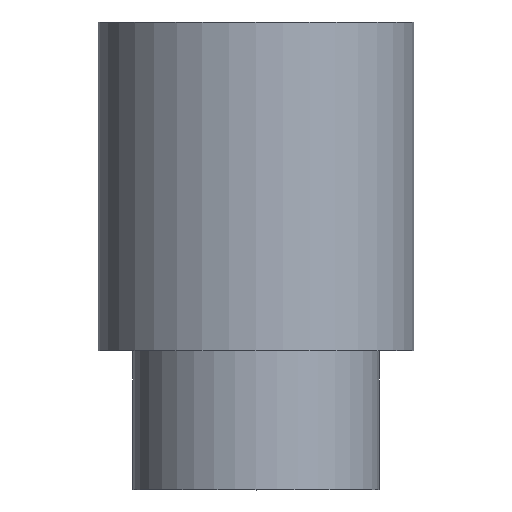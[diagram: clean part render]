
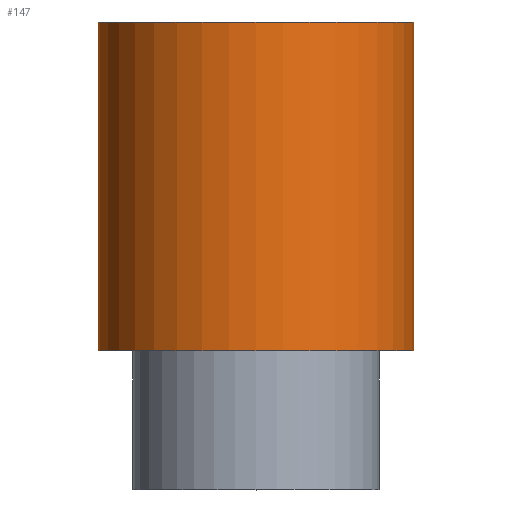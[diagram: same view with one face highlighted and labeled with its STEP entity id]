
A CAD part, top view. The second image highlights one B-rep face of the part: STEP entity #147.
In plain terms, the highlighted cylindrical face has radius 12.5 mm (diameter 25 mm), a partial arc.
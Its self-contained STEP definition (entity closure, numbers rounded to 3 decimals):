
#13=CARTESIAN_POINT('',(0.,0.,0.));
#14=DIRECTION('',(0.,1.,0.));
#15=DIRECTION('',(-1.,0.,0.));
#16=AXIS2_PLACEMENT_3D('',#13,#14,#15);
#18=DIRECTION('',(0.,-1.,0.));
#19=VECTOR('',#18,26.);
#20=CARTESIAN_POINT('',(-12.5,0.,0.));
#21=LINE('',#20,#19);
#22=DIRECTION('',(0.,-1.,0.));
#23=VECTOR('',#22,26.);
#24=CARTESIAN_POINT('',(12.5,0.,0.));
#25=LINE('',#24,#23);
#36=CARTESIAN_POINT('',(0.,-26.,0.));
#37=DIRECTION('',(0.,1.,0.));
#38=DIRECTION('',(-1.,0.,0.));
#39=AXIS2_PLACEMENT_3D('',#36,#37,#38);
#97=CARTESIAN_POINT('',(-12.5,0.,0.));
#98=CARTESIAN_POINT('',(-12.5,-26.,0.));
#99=VERTEX_POINT('',#97);
#100=VERTEX_POINT('',#98);
#109=CARTESIAN_POINT('',(12.5,0.,0.));
#110=CARTESIAN_POINT('',(12.5,-26.,0.));
#111=VERTEX_POINT('',#109);
#112=VERTEX_POINT('',#110);
#133=CARTESIAN_POINT('',(0.,-38.85,0.));
#134=DIRECTION('',(0.,1.,0.));
#135=DIRECTION('',(1.,0.,0.));
#136=AXIS2_PLACEMENT_3D('',#133,#134,#135);
#137=CYLINDRICAL_SURFACE('',#136,12.5);
#139=ORIENTED_EDGE('',*,*,#138,.F.);
#140=ORIENTED_EDGE('',*,*,#126,.T.);
#142=ORIENTED_EDGE('',*,*,#141,.T.);
#144=ORIENTED_EDGE('',*,*,#143,.F.);
#145=EDGE_LOOP('',(#139,#140,#142,#144));
#146=FACE_OUTER_BOUND('',#145,.F.);
#147=ADVANCED_FACE('',(#146),#137,.T.);
#17=CIRCLE('',#16,12.5);
#40=CIRCLE('',#39,12.5);
#126=EDGE_CURVE('',#99,#111,#17,.T.);
#138=EDGE_CURVE('',#99,#100,#21,.T.);
#141=EDGE_CURVE('',#111,#112,#25,.T.);
#143=EDGE_CURVE('',#100,#112,#40,.T.);
